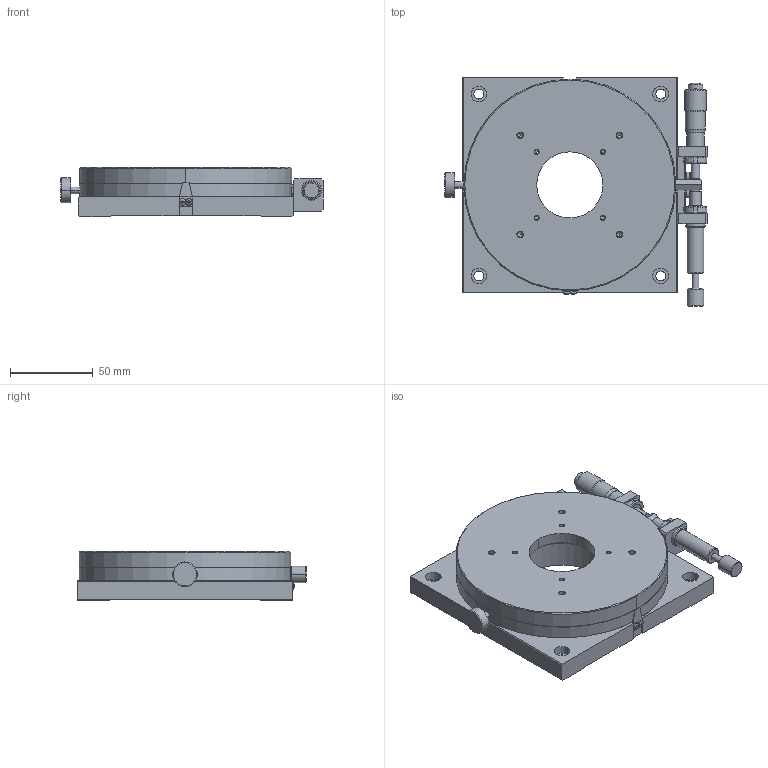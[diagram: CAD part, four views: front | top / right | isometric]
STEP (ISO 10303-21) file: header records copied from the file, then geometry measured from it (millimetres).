
FILE_DESCRIPTION (( 'STEP AP214' ), '1' );
FILE_NAME ('RM13A-C1.STEP', '2007-08-01T04:09:35', ( ' ' ), ( ' ' ), 'SwSTEP 2.0', 'SolidWorks 2006052', '' );
FILE_SCHEMA (( 'AUTOMOTIVE_DESIGN' ));
Length unit declared in the file: millimetre
Products named in the file (8): 003070-1150(3D)-12; 003480-1010(3D); 003440-1030(3D); 003480-1020(3D); 000290-1130(3D)-8; MICROMETERHEAD(MHS4-13)spindle-4; CRBS708VUUT1; RM13A-C1
Assembly tree (7 placements, depth 2):
  RM13A-C1
    MICROMETERHEAD(MHS4-13)spindle-4
    003440-1030(3D)
    003480-1010(3D)
    000290-1130(3D)-8
    CRBS708VUUT1
    003480-1020(3D)
    003070-1150(3D)-12
Bounding box: 158.5 x 138.5 x 30 mm (x, y, z)
Volume: 360922.2 mm3; surface area: 124332.5 mm2
Topology: 7 solids, 44 shells, 1159 faces, 2541 edges, 1468 vertices
Faces by surface type: plane 449, cylinder 381, cone 303, sphere 14, torus 12
Entity records: 31481 total; most frequent: DIRECTION 5888, CARTESIAN_POINT 5467, ORIENTED_EDGE 4910, EDGE_CURVE 2455, AXIS2_PLACEMENT_3D 2308, VERTEX_POINT 1468, EDGE_LOOP 1327, VECTOR 1272
